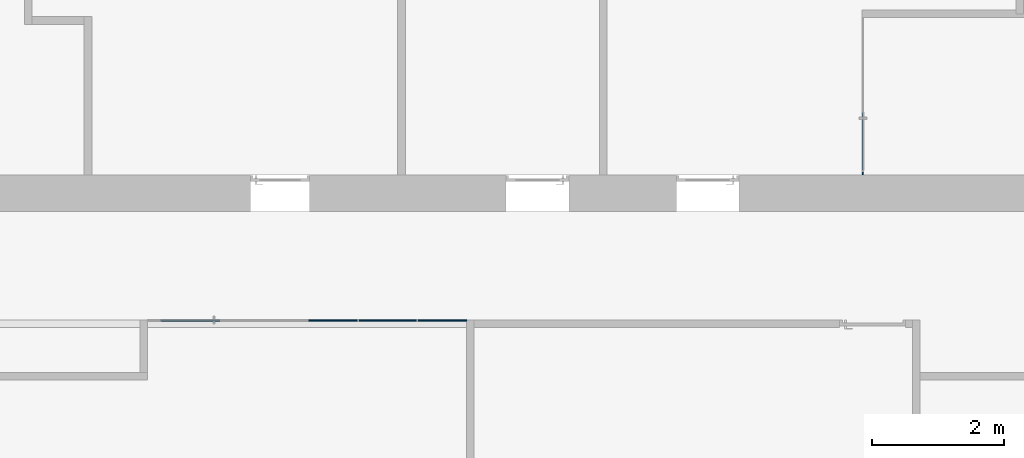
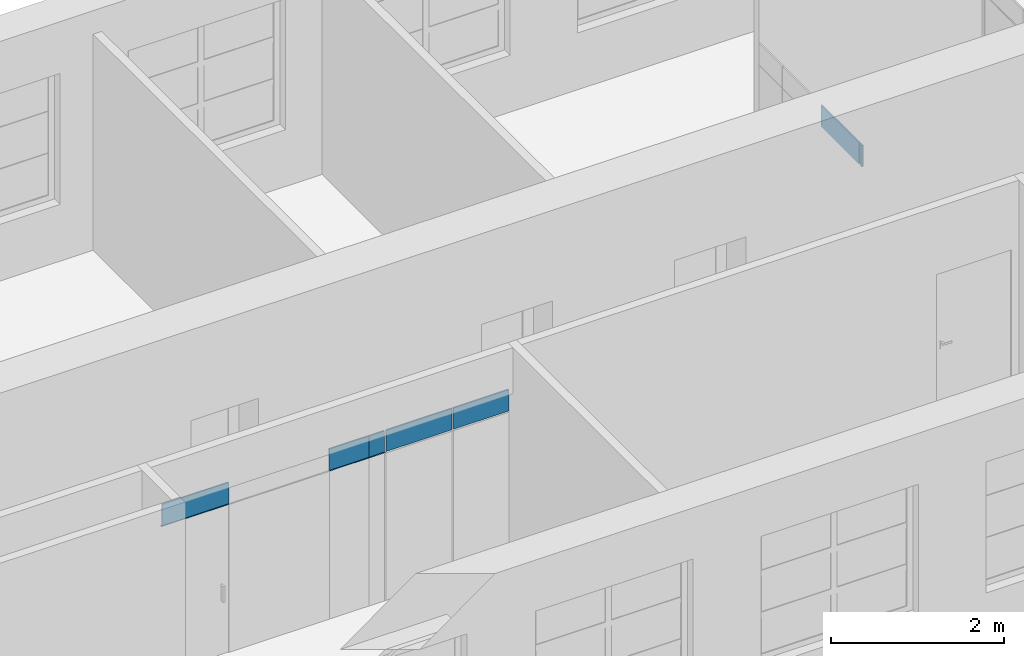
# One storey, part 33 of 66: 10 plates, 2 elements without a shape of their own.
"""IFC2X3 building model written with IfcOpenShell, lengths in millimetres."""

from ifc_helpers import new_model, entity, si_unit, converted_unit, derived_unit, direction, frame, origin, origin_2d_with_axis, place, context, subcontext, project, spatial, rectangle, extrude, source, transform, mapped, material, layer, layer_set, layer_usage, type_object, type_shapes, element, aggregate, save


model = new_model("IFC2X3")

# Units and contexts
model_context = context("Model", 3, precision=0.01, world=origin(), true_north=direction((6.12303176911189e-17, 1.0)))
body_context = subcontext(model_context, "Body", "Model", "MODEL_VIEW")
ifc_project = project(units=[si_unit("LENGTHUNIT", "METRE", prefix="MILLI"), si_unit("AREAUNIT", "SQUARE_METRE"), si_unit("VOLUMEUNIT", "CUBIC_METRE"), converted_unit("PLANEANGLEUNIT", "DEGREE", entity("IfcRatioMeasure", 0.0174532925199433), si_unit("PLANEANGLEUNIT", "RADIAN"), dimensions=[0, 0, 0, 0, 0, 0, 0]), si_unit("MASSUNIT", "GRAM", prefix="KILO"), derived_unit("MASSDENSITYUNIT", [(si_unit("MASSUNIT", "GRAM", prefix="KILO"), 1), (si_unit("LENGTHUNIT", "METRE"), -3)]), si_unit("TIMEUNIT", "SECOND"), si_unit("FREQUENCYUNIT", "HERTZ"), si_unit("THERMODYNAMICTEMPERATUREUNIT", "DEGREE_CELSIUS"), derived_unit("THERMALTRANSMITTANCEUNIT", [(si_unit("MASSUNIT", "GRAM", prefix="KILO"), 1), (si_unit("THERMODYNAMICTEMPERATUREUNIT", "KELVIN"), -1), (si_unit("TIMEUNIT", "SECOND"), -3)]), derived_unit("VOLUMETRICFLOWRATEUNIT", [(si_unit("LENGTHUNIT", "METRE"), 3), (si_unit("TIMEUNIT", "SECOND"), -1)]), si_unit("ELECTRICCURRENTUNIT", "AMPERE"), si_unit("ELECTRICVOLTAGEUNIT", "VOLT"), si_unit("POWERUNIT", "WATT"), si_unit("FORCEUNIT", "NEWTON", prefix="KILO"), si_unit("ILLUMINANCEUNIT", "LUX"), si_unit("LUMINOUSFLUXUNIT", "LUMEN"), si_unit("LUMINOUSINTENSITYUNIT", "CANDELA"), derived_unit("USERDEFINED", [(si_unit("MASSUNIT", "GRAM", prefix="KILO"), -1), (si_unit("LENGTHUNIT", "METRE"), -2), (si_unit("TIMEUNIT", "SECOND"), 3), (si_unit("LUMINOUSFLUXUNIT", "LUMEN"), 1)]), derived_unit("LINEARVELOCITYUNIT", [(si_unit("LENGTHUNIT", "METRE"), 1), (si_unit("TIMEUNIT", "SECOND"), -1)]), si_unit("PRESSUREUNIT", "PASCAL"), derived_unit("USERDEFINED", [(si_unit("LENGTHUNIT", "METRE"), -2), (si_unit("MASSUNIT", "GRAM", prefix="KILO"), 1), (si_unit("TIMEUNIT", "SECOND"), -2)])], contexts=[model_context])

# Site, building, storey
site_placement = place(None, frame((-151.875543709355, 2715.0, 0.0)))
site = spatial("IfcSite", under=ifc_project, at=site_placement, Name="Surface", CompositionType="ELEMENT")
building_placement = place(site_placement, origin())
building = spatial("IfcBuilding", under=site, at=building_placement, CompositionType="ELEMENT")
storey_placement = place(building_placement, frame((0.0, 0.0, 3350.0)))
storey = spatial("IfcBuildingStorey", under=building, at=storey_placement, Name="2 korrus", CompositionType="ELEMENT", Elevation=3350.00000000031)

# Curtain wall, plates
curtain_wall_type_1 = type_object("IfcCurtainWallType", Name="Curtain Wall:Klaassein KLS-09", PredefinedType="NOTDEFINED")
curtain_wall_1_placement = place(storey_placement, frame((0.0, 0.0, -3350.0)))
curtain_wall_1 = element("IfcCurtainWall", 1, at=curtain_wall_1_placement, inside=storey, type_object=curtain_wall_type_1, Name="Curtain Wall:Klaassein KLS-09", ObjectType="Curtain Wall:Klaassein KLS-09")
ifc_material = material(Name="<Unnamed>")
ifc_layer = layer(ifc_material, 20.0)
ifc_layer_set = layer_set([ifc_layer], Name="Curtain Wall:Klaassein KLS-01")
ifc_layer_usage_1 = layer_usage(ifc_layer_set, "AXIS3", "POSITIVE", 0.0)
plate_type_1 = type_object("IfcPlateType", Name="Glazed", PredefinedType="CURTAIN_PANEL", material=ifc_layer_set)
shared_shape_1 = source(origin(), body_context, "Body", "SweptSolid", [
    extrude(rectangle(XDim=20.0, YDim=900.000000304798, at=origin_2d_with_axis()), frame((0.0, 0.0, 0.0), z_axis=(0.0, 0.0, 1.0), x_axis=(0.0, 1.0, 0.0)), (0.0, 0.0, 1.0), 9.99999999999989),
])
type_shapes(plate_type_1, [shared_shape_1])
plate_1_placement = place(curtain_wall_1_placement, frame((13878.5552877, 4352.04493399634, 5440.0)))
plate_1 = element("IfcPlate", 2, at=plate_1_placement, type_object=plate_type_1, material=ifc_layer_usage_1, Name="System Panel:Glazed", ObjectType="Glazed", context=body_context, shape_type="MappedRepresentation", body=[
    mapped(shared_shape_1, transform((0.0, 0.0, 0.0), scale=1.0)),
])
ifc_layer_usage_2 = layer_usage(ifc_layer_set, "AXIS3", "POSITIVE", 0.0)
plate_type_2 = type_object("IfcPlateType", Name="Glazed", PredefinedType="CURTAIN_PANEL", material=ifc_layer_set)
shared_shape_2 = source(origin(), body_context, "Body", "SweptSolid", [
    extrude(rectangle(XDim=20.0, YDim=528.919881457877, at=origin_2d_with_axis()), frame((0.0, 0.0, 0.0), z_axis=(0.0, 0.0, 1.0), x_axis=(0.0, 1.0, 0.0)), (0.0, 0.0, 1.0), 9.99999999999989),
])
type_shapes(plate_type_2, [shared_shape_2])
plate_2_placement = place(curtain_wall_1_placement, frame((15938.024667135, 4352.04493399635, 5440.0)))
plate_2 = element("IfcPlate", 3, at=plate_2_placement, type_object=plate_type_2, material=ifc_layer_usage_2, Name="System Panel:Glazed", ObjectType="Glazed", context=body_context, shape_type="MappedRepresentation", body=[
    mapped(shared_shape_2, transform((0.0, 0.0, 0.0), scale=1.0)),
])
ifc_layer_usage_3 = layer_usage(ifc_layer_set, "AXIS3", "POSITIVE", 0.0)
plate_type_3 = type_object("IfcPlateType", Name="Glazed", PredefinedType="CURTAIN_PANEL", material=ifc_layer_set)
shared_shape_3 = source(origin(), body_context, "Body", "SweptSolid", [
    extrude(rectangle(XDim=20.0, YDim=217.585771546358, at=origin_2d_with_axis()), frame((0.0, 0.0, 0.0), z_axis=(0.0, 0.0, 1.0), x_axis=(0.0, 1.0, 0.0)), (0.0, 0.0, 1.0), 9.99999999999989),
])
type_shapes(plate_type_3, [shared_shape_3])
plate_3_placement = place(curtain_wall_1_placement, frame((16311.2774936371, 4352.04493399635, 5440.0)))
plate_3 = element("IfcPlate", 4, at=plate_3_placement, type_object=plate_type_3, material=ifc_layer_usage_3, Name="System Panel:Glazed", ObjectType="Glazed", context=body_context, shape_type="MappedRepresentation", body=[
    mapped(shared_shape_3, transform((0.0, 0.0, 0.0), scale=1.0)),
])
ifc_layer_usage_4 = layer_usage(ifc_layer_set, "AXIS3", "POSITIVE", 0.0)
plate_type_4 = type_object("IfcPlateType", Name="Glazed", PredefinedType="CURTAIN_PANEL", material=ifc_layer_set)
shared_shape_4 = source(origin(), body_context, "Body", "SweptSolid", [
    extrude(rectangle(XDim=20.0, YDim=890.000000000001, at=origin_2d_with_axis()), frame((0.0, 0.0, 0.0), z_axis=(0.0, 0.0, 1.0), x_axis=(0.0, 1.0, 0.0)), (0.0, 0.0, 1.0), 299.999999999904),
])
type_shapes(plate_type_4, [shared_shape_4])
plate_4_placement = place(curtain_wall_1_placement, frame((13883.5552877, 4352.04493399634, 5450.0)))
plate_4 = element("IfcPlate", 5, at=plate_4_placement, type_object=plate_type_4, material=ifc_layer_usage_4, Name="System Panel:Glazed", ObjectType="Glazed", context=body_context, shape_type="MappedRepresentation", body=[
    mapped(shared_shape_4, transform((0.0, 0.0, 0.0), scale=1.0)),
])
ifc_layer_usage_5 = layer_usage(ifc_layer_set, "AXIS3", "POSITIVE", 0.0)
plate_type_5 = type_object("IfcPlateType", Name="Glazed", PredefinedType="CURTAIN_PANEL", material=ifc_layer_set)
shared_shape_5 = source(origin(), body_context, "Body", "SweptSolid", [
    extrude(rectangle(XDim=20.0, YDim=528.919881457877, at=origin_2d_with_axis()), frame((0.0, 0.0, 0.0), z_axis=(0.0, 0.0, 1.0), x_axis=(0.0, 1.0, 0.0)), (0.0, 0.0, 1.0), 299.999999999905),
])
type_shapes(plate_type_5, [shared_shape_5])
plate_5_placement = place(curtain_wall_1_placement, frame((15938.024667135, 4352.04493399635, 5450.0)))
plate_5 = element("IfcPlate", 6, at=plate_5_placement, type_object=plate_type_5, material=ifc_layer_usage_5, Name="System Panel:Glazed", ObjectType="Glazed", context=body_context, shape_type="MappedRepresentation", body=[
    mapped(shared_shape_5, transform((0.0, 0.0, 0.0), scale=1.0)),
])
ifc_layer_usage_6 = layer_usage(ifc_layer_set, "AXIS3", "POSITIVE", 0.0)
plate_type_6 = type_object("IfcPlateType", Name="Glazed", PredefinedType="CURTAIN_PANEL", material=ifc_layer_set)
shared_shape_6 = source(origin(), body_context, "Body", "SweptSolid", [
    extrude(rectangle(XDim=20.0, YDim=207.585771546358, at=origin_2d_with_axis()), frame((0.0, 0.0, 0.0), z_axis=(0.0, 0.0, 1.0), x_axis=(0.0, 1.0, 0.0)), (0.0, 0.0, 1.0), 299.999999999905),
])
type_shapes(plate_type_6, [shared_shape_6])
plate_6_placement = place(curtain_wall_1_placement, frame((16306.2774936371, 4352.04493399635, 5450.0)))
plate_6 = element("IfcPlate", 7, at=plate_6_placement, type_object=plate_type_6, material=ifc_layer_usage_6, Name="System Panel:Glazed", ObjectType="Glazed", context=body_context, shape_type="MappedRepresentation", body=[
    mapped(shared_shape_6, transform((0.0, 0.0, 0.0), scale=1.0)),
])
ifc_layer_usage_7 = layer_usage(ifc_layer_set, "AXIS3", "POSITIVE", 0.0)
plate_type_7 = type_object("IfcPlateType", Name="Glazed", PredefinedType="CURTAIN_PANEL", material=ifc_layer_set)
shared_shape_7 = source(origin(), body_context, "Body", "SweptSolid", [
    extrude(rectangle(XDim=20.0, YDim=879.999999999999, at=origin_2d_with_axis()), frame((0.0, 0.0, 0.0), z_axis=(0.0, 0.0, 1.0), x_axis=(0.0, 1.0, 0.0)), (0.0, 0.0, 1.0), 299.999999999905),
])
type_shapes(plate_type_7, [shared_shape_7])
plate_7_placement = place(curtain_wall_1_placement, frame((16870.0703794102, 4352.04493399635, 5450.0)))
plate_7 = element("IfcPlate", 8, at=plate_7_placement, type_object=plate_type_7, material=ifc_layer_usage_7, Name="System Panel:Glazed", ObjectType="Glazed", context=body_context, shape_type="MappedRepresentation", body=[
    mapped(shared_shape_7, transform((0.0, 0.0, 0.0), scale=1.0)),
])

# Curtain wall, plate
curtain_wall_type_2 = type_object("IfcCurtainWallType", Name="Curtain Wall:Klaassein KLS-05", PredefinedType="NOTDEFINED")
curtain_wall_2_placement = place(storey_placement, frame((0.0, 0.0, -3350.0)))
curtain_wall_2 = element("IfcCurtainWall", 9, at=curtain_wall_2_placement, inside=storey, type_object=curtain_wall_type_2, Name="Curtain Wall:Klaassein KLS-05", ObjectType="Curtain Wall:Klaassein KLS-05")
ifc_layer_usage_8 = layer_usage(ifc_layer_set, "AXIS3", "POSITIVE", 0.0)
plate_8_placement = place(curtain_wall_2_placement, frame((24073.28599988, 7070.0, 5450.0), z_axis=(0.0, 0.0, 1.0), x_axis=(0.0, -1.0, 0.0)))
plate_8 = element("IfcPlate", 10, at=plate_8_placement, type_object=plate_type_7, material=ifc_layer_usage_8, Name="System Panel:Glazed", ObjectType="Glazed", context=body_context, shape_type="MappedRepresentation", body=[
    mapped(shared_shape_7, transform((0.0, 0.0, 0.0), scale=1.0)),
])

# Plate
ifc_layer_usage_9 = layer_usage(ifc_layer_set, "AXIS3", "POSITIVE", 0.0)
plate_type_8 = type_object("IfcPlateType", Name="Glazed", PredefinedType="CURTAIN_PANEL", material=ifc_layer_set)
shared_shape_8 = source(origin(), body_context, "Body", "SweptSolid", [
    extrude(rectangle(XDim=20.0, YDim=736.494346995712, at=origin_2d_with_axis()), frame((0.0, 0.0, 0.0), z_axis=(0.0, 0.0, 1.0), x_axis=(0.0, 1.0, 0.0)), (0.0, 0.0, 1.0), 299.999999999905),
])
type_shapes(plate_type_8, [shared_shape_8])
plate_9_placement = place(curtain_wall_1_placement, frame((17698.3175529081, 4352.04493399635, 5450.0)))
plate_9 = element("IfcPlate", 11, at=plate_9_placement, type_object=plate_type_8, material=ifc_layer_usage_9, Name="System Panel:Glazed", ObjectType="Glazed", context=body_context, shape_type="MappedRepresentation", body=[
    mapped(shared_shape_8, transform((0.0, 0.0, 0.0), scale=1.0)),
])

aggregate(curtain_wall_1, [plate_1, plate_2, plate_3, plate_4, plate_5, plate_6, plate_7, plate_9])

ifc_layer_usage_10 = layer_usage(ifc_layer_set, "AXIS3", "POSITIVE", 0.0)
plate_type_9 = type_object("IfcPlateType", Name="Glazed", PredefinedType="CURTAIN_PANEL", material=ifc_layer_set)
shared_shape_9 = source(origin(), body_context, "Body", "SweptSolid", [
    extrude(rectangle(XDim=20.0, YDim=50.0000000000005, at=origin_2d_with_axis()), frame((0.0, 0.0, 0.0), z_axis=(0.0, 0.0, 1.0), x_axis=(0.0, 1.0, 0.0)), (0.0, 0.0, 1.0), 299.999999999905),
])
type_shapes(plate_type_9, [shared_shape_9])
plate_10_placement = place(curtain_wall_2_placement, frame((24073.28599988, 6585.0, 5450.0), z_axis=(0.0, 0.0, 1.0), x_axis=(0.0, -1.0, 0.0)))
plate_10 = element("IfcPlate", 12, at=plate_10_placement, type_object=plate_type_9, material=ifc_layer_usage_10, Name="System Panel:Glazed", ObjectType="Glazed", context=body_context, shape_type="MappedRepresentation", body=[
    mapped(shared_shape_9, transform((0.0, 0.0, 0.0), scale=1.0)),
])

aggregate(curtain_wall_2, [plate_8, plate_10])

save(model, "model.ifc")
